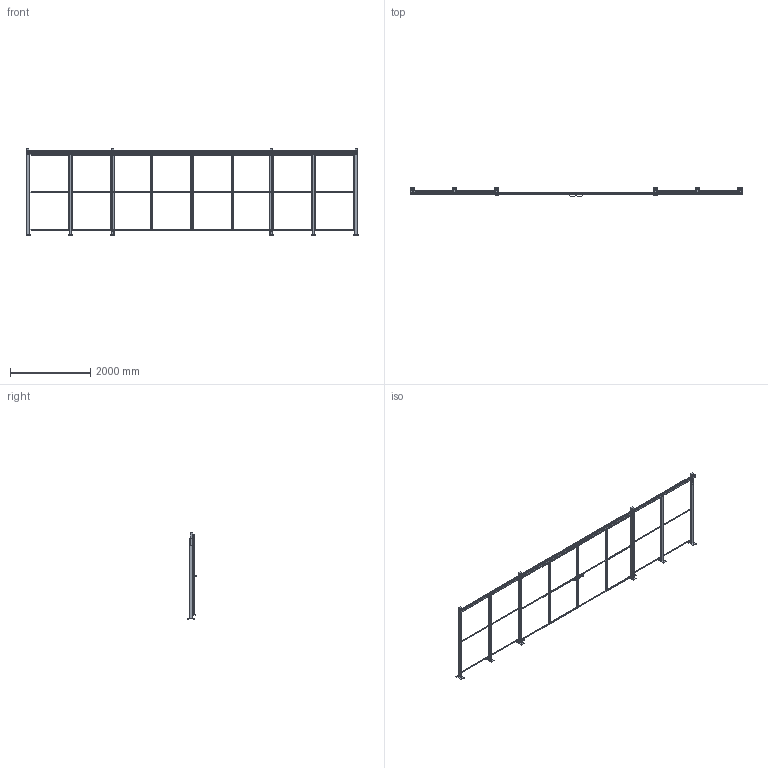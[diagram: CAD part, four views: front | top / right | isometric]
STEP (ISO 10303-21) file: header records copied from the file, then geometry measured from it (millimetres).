
FILE_DESCRIPTION(/* description */ (''),/* implementation_level */ '2;1');
FILE_NAME(/* name */ 'C:\SafeGuarding\ELABORATI\HOR§VED_2025-03-31-13-38-23.stp',/* time_stamp */ '2025-03-31T13:38:25+02:00',/* author */ ('admin'),/* organization */ (''),/* preprocessor_version */ 'ST-DEVELOPER v18.1',/* originating_system */ 'AutoCAD Mechanical',/* authorisation */ '');
FILE_SCHEMA (('AUTOMOTIVE_DESIGN { 1 0 10303 214 3 1 1 }'));
Length unit declared in the file: millimetre
Products named in the file (4): Product; R_VFPA.REPE20.10001900; P_VFMA.V260SDU.2020; P_VFMA.V360SDU.2020
Assembly tree (14 placements, depth 2):
  Product
    R_VFPA.REPE20.10001900  x8
    P_VFMA.V260SDU.2020  x2
    P_VFMA.V360SDU.2020  x4
Bounding box: 8300 x 235.91 x 2154 mm (x, y, z)
Volume: 81383794 mm3; surface area: 12048103.4 mm2
Topology: 84 solids, 106 shells, 874 faces, 3009 edges, 3310 vertices
Faces by surface type: plane 810, cylinder 64
Full cylindrical faces by diameter (mm): 11 x24, 12 x4, 14 x4, 15 x8, 40 x8
Entity records: 19070 total; most frequent: CARTESIAN_POINT 3986, ORIENTED_EDGE 2876, DIRECTION 2868, EDGE_CURVE 1536, LINE 1360, VECTOR 1360, VERTEX_POINT 1108, AXIS2_PLACEMENT_3D 754
